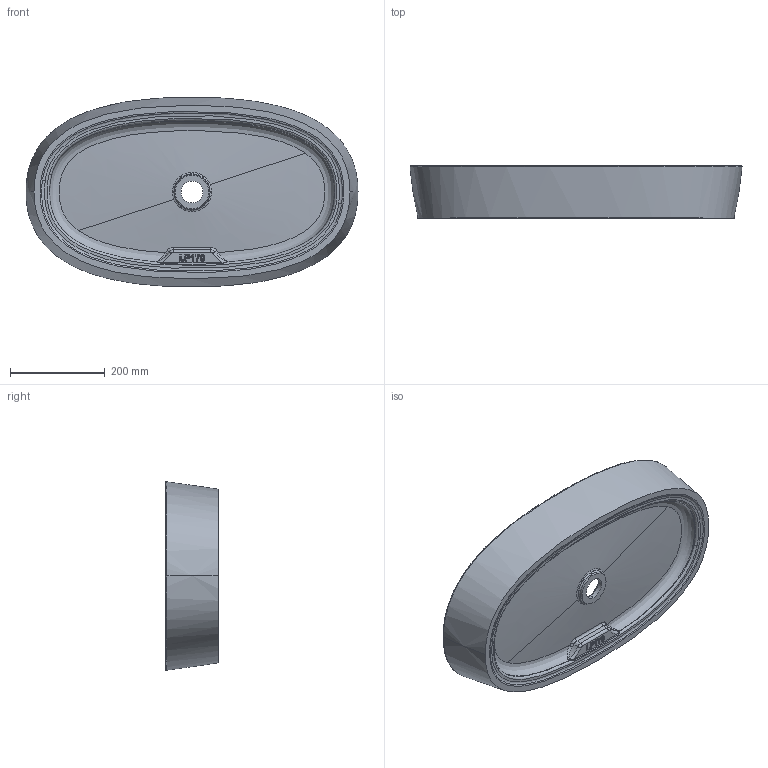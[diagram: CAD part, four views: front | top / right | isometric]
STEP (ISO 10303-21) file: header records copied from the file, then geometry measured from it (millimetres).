
FILE_DESCRIPTION (( 'STEP AP203' ), '1' );
FILE_NAME ('LP070.STEP', '2021-09-10T12:14:50', ( '' ), ( '' ), 'SwSTEP 2.0', 'SolidWorks 2020', '' );
FILE_SCHEMA (( 'CONFIG_CONTROL_DESIGN' ));
Length unit declared in the file: millimetre
Products named in the file (1): LP070
Bounding box: 699.64 x 110 x 399.01 mm (x, y, z)
Volume: 5207917.6 mm3; surface area: 745535.7 mm2
Topology: 1 solids, 1 shells, 296 faces, 683 edges, 372 vertices
Faces by surface type: bspline 118, cylinder 77, plane 36, torus 31, sphere 26, cone 8
Entity records: 31157 total; most frequent: CARTESIAN_POINT 25336, ORIENTED_EDGE 1312, DIRECTION 1021, EDGE_CURVE 656, AXIS2_PLACEMENT_3D 421, VERTEX_POINT 371, EDGE_LOOP 307, FACE_OUTER_BOUND 296
